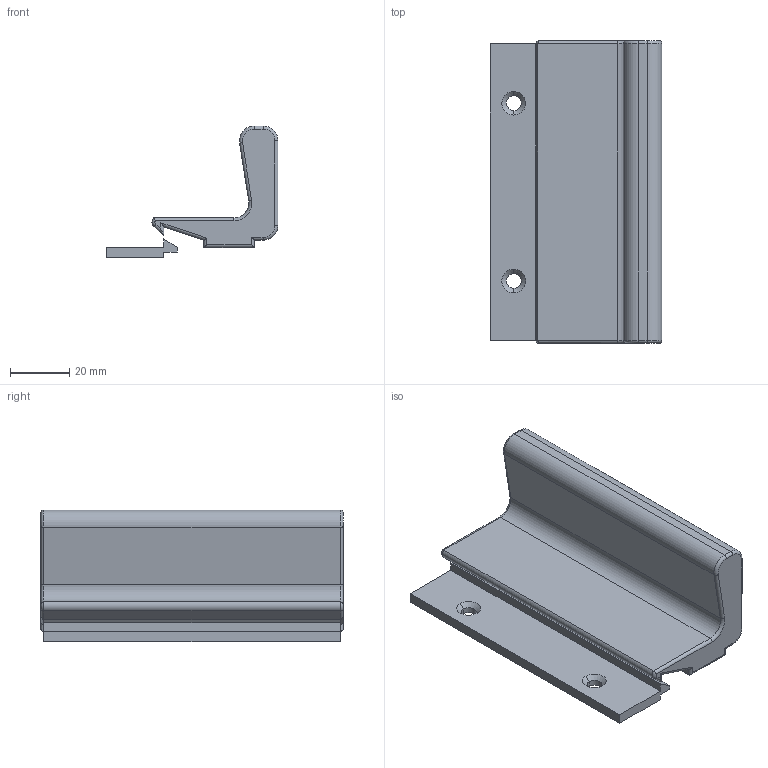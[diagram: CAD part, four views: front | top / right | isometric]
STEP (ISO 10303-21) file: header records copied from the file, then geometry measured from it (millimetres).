
FILE_DESCRIPTION (( 'STEP AP203' ), '1' );
FILE_NAME ('Assieme1.STEP', '2019-02-19T08:41:51', ( '' ), ( '' ), 'SwSTEP 2.0', 'SolidWorks 2018', '' );
FILE_SCHEMA (( 'CONFIG_CONTROL_DESIGN' ));
Length unit declared in the file: millimetre
Products named in the file (1): Assieme1
Bounding box: 58 x 102 x 44.5 mm (x, y, z)
Volume: 75214.6 mm3; surface area: 23768.8 mm2
Topology: 2 solids, 2 shells, 74 faces, 168 edges, 100 vertices
Faces by surface type: cylinder 35, plane 25, torus 10, cone 4
Entity records: 2139 total; most frequent: CARTESIAN_POINT 397, DIRECTION 362, ORIENTED_EDGE 336, EDGE_CURVE 168, AXIS2_PLACEMENT_3D 133, VERTEX_POINT 100, LINE 96, VECTOR 96
